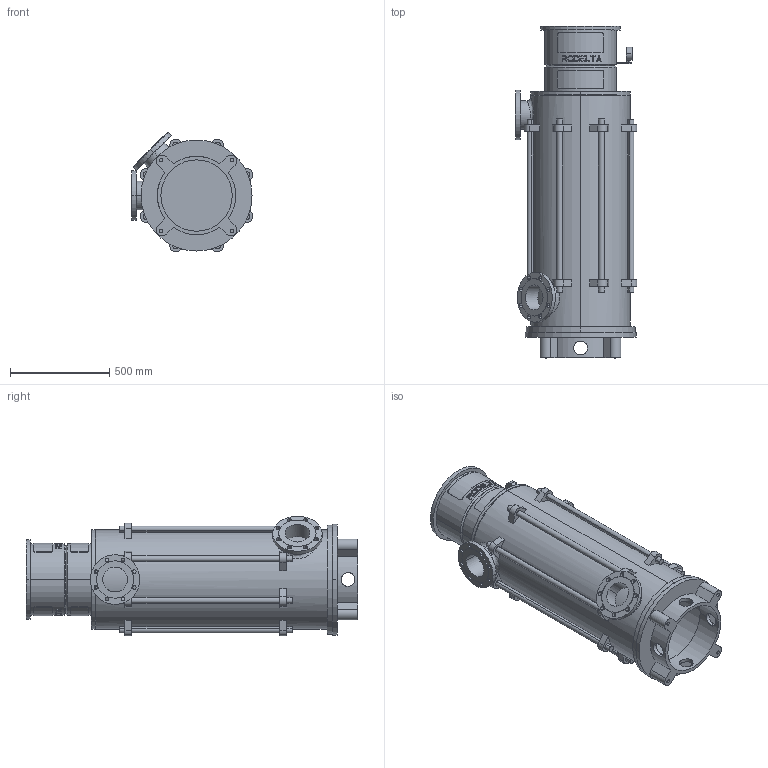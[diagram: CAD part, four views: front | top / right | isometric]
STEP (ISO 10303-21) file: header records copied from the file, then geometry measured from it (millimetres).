
FILE_DESCRIPTION((''),'2;1');
FILE_NAME('LS5_7TR_0GR_TOT_30KW','2023-08-08T',('Lyritlocal'),(''),'PRO/ENGINEER BY PARAMETRIC TECHNOLOGY CORPORATION, 2016360','PRO/ENGINEER BY PARAMETRIC TECHNOLOGY CORPORATION, 2016360','');
FILE_SCHEMA(('CONFIG_CONTROL_DESIGN'));
Length unit declared in the file: millimetre
Products named in the file (1): LS5_7TR_0GR_TOT_30KW
Bounding box: 614.04 x 1674 x 603.65 mm (x, y, z)
Volume: 45350483.9 mm3; surface area: 6810563.1 mm2
Topology: 3 solids, 7 shells, 672 faces, 1747 edges, 1158 vertices
Faces by surface type: plane 414, cylinder 242, cone 12, bspline 4
Entity records: 21880 total; most frequent: CARTESIAN_POINT 5436, ORIENTED_EDGE 3478, DIRECTION 3269, EDGE_CURVE 1747, AXIS2_PLACEMENT_3D 1241, VERTEX_POINT 1158, EDGE_LOOP 809, VECTOR 787
